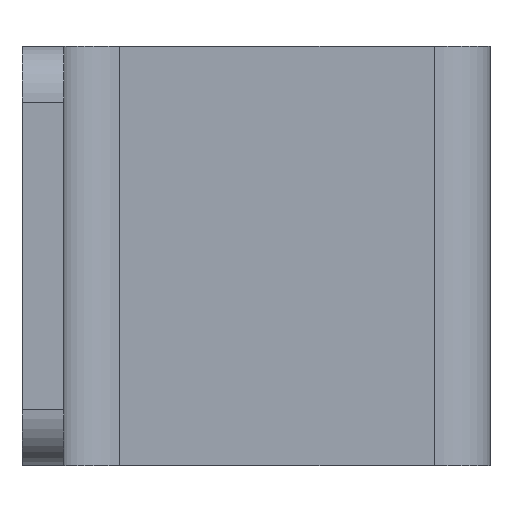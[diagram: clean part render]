
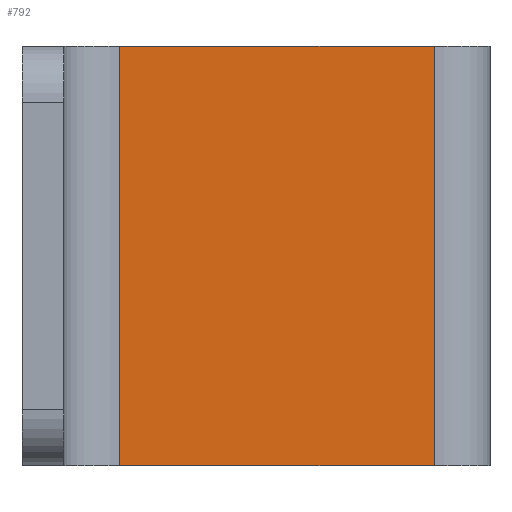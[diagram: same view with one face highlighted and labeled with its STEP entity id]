
A CAD part, left-side view. The second image highlights one B-rep face of the part: STEP entity #792.
In plain terms, the highlighted planar face has unit normal (-1, 0, 0).
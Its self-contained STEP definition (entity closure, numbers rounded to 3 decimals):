
#70=PLANE('',#850);
#90=LINE('',#1526,#153);
#106=LINE('',#1591,#169);
#126=LINE('',#1975,#189);
#127=LINE('',#1976,#190);
#153=VECTOR('',#908,1000.);
#169=VECTOR('',#940,1000.);
#189=VECTOR('',#984,1000.);
#190=VECTOR('',#985,1000.);
#341=ORIENTED_EDGE('',*,*,#492,.T.);
#342=ORIENTED_EDGE('',*,*,#522,.T.);
#343=ORIENTED_EDGE('',*,*,#468,.F.);
#344=ORIENTED_EDGE('',*,*,#523,.T.);
#468=EDGE_CURVE('',#580,#581,#90,.T.);
#492=EDGE_CURVE('',#602,#601,#106,.T.);
#522=EDGE_CURVE('',#601,#581,#126,.F.);
#523=EDGE_CURVE('',#580,#602,#127,.T.);
#580=VERTEX_POINT('',#1525);
#581=VERTEX_POINT('',#1527);
#601=VERTEX_POINT('',#1590);
#602=VERTEX_POINT('',#1592);
#678=EDGE_LOOP('',(#341,#342,#343,#344));
#733=FACE_BOUND('',#678,.T.);
#792=ADVANCED_FACE('',(#733),#70,.F.);
#850=AXIS2_PLACEMENT_3D('',#1974,#982,#983);
#908=DIRECTION('',(0.,1.,0.));
#940=DIRECTION('',(0.,1.,0.));
#982=DIRECTION('',(1.,0.,0.));
#983=DIRECTION('',(0.,1.,0.));
#984=DIRECTION('',(0.,0.,1.));
#985=DIRECTION('',(0.,0.,1.));
#1525=CARTESIAN_POINT('',(-7.,-13.75,0.));
#1526=CARTESIAN_POINT('',(-7.,-0.5,0.));
#1527=CARTESIAN_POINT('',(-7.,-2.5,0.));
#1590=CARTESIAN_POINT('',(-7.,-2.5,15.));
#1591=CARTESIAN_POINT('',(-7.,-0.5,15.));
#1592=CARTESIAN_POINT('',(-7.,-13.75,15.));
#1974=CARTESIAN_POINT('',(-7.,-0.5,0.));
#1975=CARTESIAN_POINT('',(-7.,-2.5,0.));
#1976=CARTESIAN_POINT('',(-7.,-13.75,0.));
